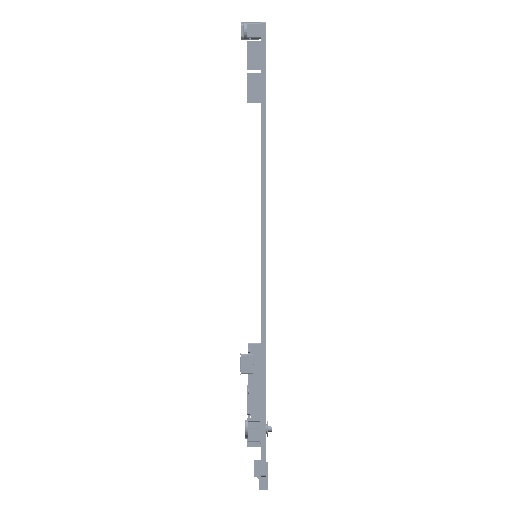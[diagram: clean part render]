
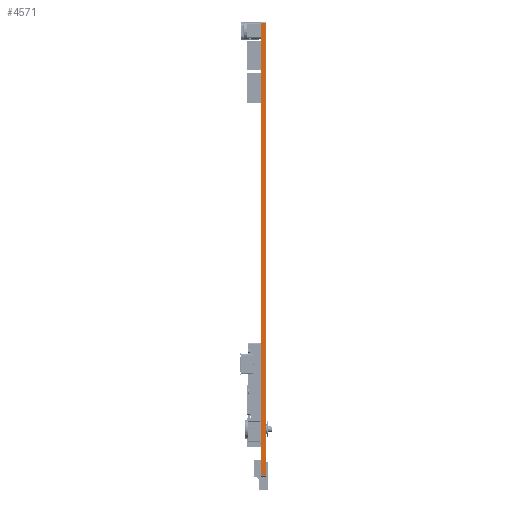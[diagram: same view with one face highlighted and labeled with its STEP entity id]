
A CAD part, left-side view. The second image highlights one B-rep face of the part: STEP entity #4571.
In plain terms, the highlighted planar face has unit normal (-1, 0, 0).
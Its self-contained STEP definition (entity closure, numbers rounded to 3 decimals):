
#2139=DIRECTION('',(0.,0.,-1.));
#2140=VECTOR('',#2139,303.59);
#2141=CARTESIAN_POINT('',(-125.,0.,304.59));
#2142=LINE('',#2141,#2140);
#2422=DIRECTION('',(0.,0.,-1.));
#2423=VECTOR('',#2422,303.59);
#2424=CARTESIAN_POINT('',(-125.,-3.18,304.59));
#2425=LINE('',#2424,#2423);
#3150=DIRECTION('',(0.,-1.,0.));
#3151=VECTOR('',#3150,3.18);
#3152=CARTESIAN_POINT('',(-125.,0.,1.));
#3153=LINE('',#3152,#3151);
#3157=DIRECTION('',(0.,-1.,0.));
#3158=VECTOR('',#3157,3.18);
#3159=CARTESIAN_POINT('',(-125.,0.,304.59));
#3160=LINE('',#3159,#3158);
#3492=CARTESIAN_POINT('',(-125.,-3.18,1.));
#3494=VERTEX_POINT('',#3492);
#3498=CARTESIAN_POINT('',(-125.,0.,1.));
#3499=VERTEX_POINT('',#3498);
#3501=CARTESIAN_POINT('',(-125.,-3.18,304.59));
#3503=VERTEX_POINT('',#3501);
#3504=CARTESIAN_POINT('',(-125.,0.,304.59));
#3505=VERTEX_POINT('',#3504);
#4560=CARTESIAN_POINT('',(-125.,0.,0.));
#4561=DIRECTION('',(-1.,0.,0.));
#4562=DIRECTION('',(0.,0.,1.));
#4563=AXIS2_PLACEMENT_3D('',#4560,#4561,#4562);
#4564=PLANE('',#4563);
#4565=ORIENTED_EDGE('',*,*,#4113,.F.);
#4566=ORIENTED_EDGE('',*,*,#3623,.F.);
#4567=ORIENTED_EDGE('',*,*,#4553,.T.);
#4568=ORIENTED_EDGE('',*,*,#3757,.T.);
#4569=EDGE_LOOP('',(#4565,#4566,#4567,#4568));
#4570=FACE_OUTER_BOUND('',#4569,.F.);
#3623=EDGE_CURVE('',#3505,#3499,#2142,.T.);
#3757=EDGE_CURVE('',#3503,#3494,#2425,.T.);
#4113=EDGE_CURVE('',#3499,#3494,#3153,.T.);
#4553=EDGE_CURVE('',#3505,#3503,#3160,.T.);
#4571=ADVANCED_FACE('',(#4570),#4564,.T.);
